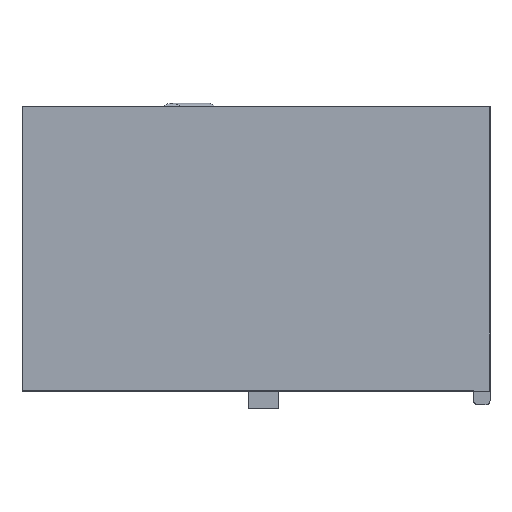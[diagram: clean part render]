
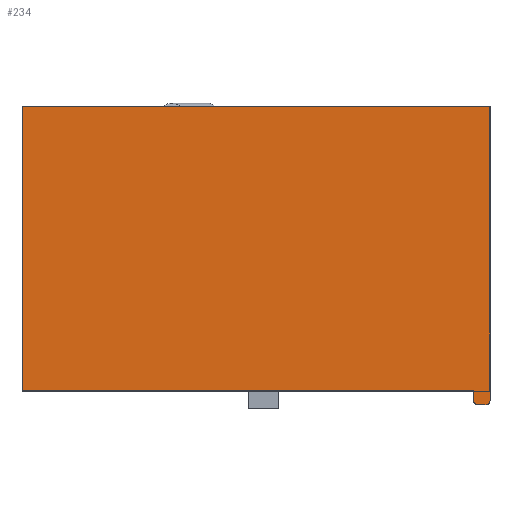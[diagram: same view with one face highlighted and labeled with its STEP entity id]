
A CAD part, top view. The second image highlights one B-rep face of the part: STEP entity #234.
In plain terms, the highlighted planar face has unit normal (0, 0, 1).
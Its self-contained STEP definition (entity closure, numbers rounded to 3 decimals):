
#40 = VERTEX_POINT('',#41);
#41 = CARTESIAN_POINT('',(226.6,0.,7.41));
#47 = EDGE_CURVE('',#40,#48,#50,.T.);
#48 = VERTEX_POINT('',#49);
#49 = CARTESIAN_POINT('',(226.6,-5.,7.41));
#50 = LINE('',#51,#52);
#51 = CARTESIAN_POINT('',(226.6,0.,7.41));
#52 = VECTOR('',#53,1.);
#53 = DIRECTION('',(0.,-1.,0.));
#136 = VERTEX_POINT('',#137);
#137 = CARTESIAN_POINT('',(228.6,-7.,7.41));
#143 = EDGE_CURVE('',#48,#136,#144,.T.);
#144 = CIRCLE('',#145,2.);
#145 = AXIS2_PLACEMENT_3D('',#146,#147,#148);
#146 = CARTESIAN_POINT('',(228.6,-5.,7.41));
#147 = DIRECTION('',(-0.,0.,1.));
#148 = DIRECTION('',(0.,-1.,0.));
#234 = ADVANCED_FACE('',(#235),#304,.T.);
#235 = FACE_BOUND('',#236,.T.);
#236 = EDGE_LOOP('',(#237,#238,#239,#247,#256,#264,#272,#281,#289,#298)
  );
#237 = ORIENTED_EDGE('',*,*,#47,.T.);
#238 = ORIENTED_EDGE('',*,*,#143,.T.);
#239 = ORIENTED_EDGE('',*,*,#240,.T.);
#240 = EDGE_CURVE('',#136,#241,#243,.T.);
#241 = VERTEX_POINT('',#242);
#242 = CARTESIAN_POINT('',(232.8,-7.,7.41));
#243 = LINE('',#244,#245);
#244 = CARTESIAN_POINT('',(226.6,-7.,7.41));
#245 = VECTOR('',#246,1.);
#246 = DIRECTION('',(1.,0.,0.));
#247 = ORIENTED_EDGE('',*,*,#248,.F.);
#248 = EDGE_CURVE('',#249,#241,#251,.T.);
#249 = VERTEX_POINT('',#250);
#250 = CARTESIAN_POINT('',(234.8,-5.,7.41));
#251 = CIRCLE('',#252,2.);
#252 = AXIS2_PLACEMENT_3D('',#253,#254,#255);
#253 = CARTESIAN_POINT('',(232.8,-5.,7.41));
#254 = DIRECTION('',(-0.,-0.,-1.));
#255 = DIRECTION('',(0.,-1.,0.));
#256 = ORIENTED_EDGE('',*,*,#257,.F.);
#257 = EDGE_CURVE('',#258,#249,#260,.T.);
#258 = VERTEX_POINT('',#259);
#259 = CARTESIAN_POINT('',(234.8,143.,7.41));
#260 = LINE('',#261,#262);
#261 = CARTESIAN_POINT('',(234.8,0.,7.41));
#262 = VECTOR('',#263,1.);
#263 = DIRECTION('',(0.,-1.,0.));
#264 = ORIENTED_EDGE('',*,*,#265,.T.);
#265 = EDGE_CURVE('',#258,#266,#268,.T.);
#266 = VERTEX_POINT('',#267);
#267 = CARTESIAN_POINT('',(0.6,143.,7.41));
#268 = LINE('',#269,#270);
#269 = CARTESIAN_POINT('',(234.8,143.,7.41));
#270 = VECTOR('',#271,1.);
#271 = DIRECTION('',(-1.,0.,0.));
#272 = ORIENTED_EDGE('',*,*,#273,.T.);
#273 = EDGE_CURVE('',#266,#274,#276,.T.);
#274 = VERTEX_POINT('',#275);
#275 = CARTESIAN_POINT('',(-0.4,142.,7.41));
#276 = CIRCLE('',#277,1.);
#277 = AXIS2_PLACEMENT_3D('',#278,#279,#280);
#278 = CARTESIAN_POINT('',(0.6,142.,7.41));
#279 = DIRECTION('',(-0.,0.,1.));
#280 = DIRECTION('',(0.,-1.,0.));
#281 = ORIENTED_EDGE('',*,*,#282,.T.);
#282 = EDGE_CURVE('',#274,#283,#285,.T.);
#283 = VERTEX_POINT('',#284);
#284 = CARTESIAN_POINT('',(-0.4,1.,7.41));
#285 = LINE('',#286,#287);
#286 = CARTESIAN_POINT('',(-0.4,143.,7.41));
#287 = VECTOR('',#288,1.);
#288 = DIRECTION('',(0.,-1.,0.));
#289 = ORIENTED_EDGE('',*,*,#290,.T.);
#290 = EDGE_CURVE('',#283,#291,#293,.T.);
#291 = VERTEX_POINT('',#292);
#292 = CARTESIAN_POINT('',(0.6,0.,7.41));
#293 = CIRCLE('',#294,1.);
#294 = AXIS2_PLACEMENT_3D('',#295,#296,#297);
#295 = CARTESIAN_POINT('',(0.6,1.,7.41));
#296 = DIRECTION('',(-0.,0.,1.));
#297 = DIRECTION('',(0.,-1.,0.));
#298 = ORIENTED_EDGE('',*,*,#299,.T.);
#299 = EDGE_CURVE('',#291,#40,#300,.T.);
#300 = LINE('',#301,#302);
#301 = CARTESIAN_POINT('',(-0.4,0.,7.41));
#302 = VECTOR('',#303,1.);
#303 = DIRECTION('',(1.,0.,0.));
#304 = PLANE('',#305);
#305 = AXIS2_PLACEMENT_3D('',#306,#307,#308);
#306 = CARTESIAN_POINT('',(119.263,70.063,7.41));
#307 = DIRECTION('',(0.,0.,1.));
#308 = DIRECTION('',(1.,0.,0.));
